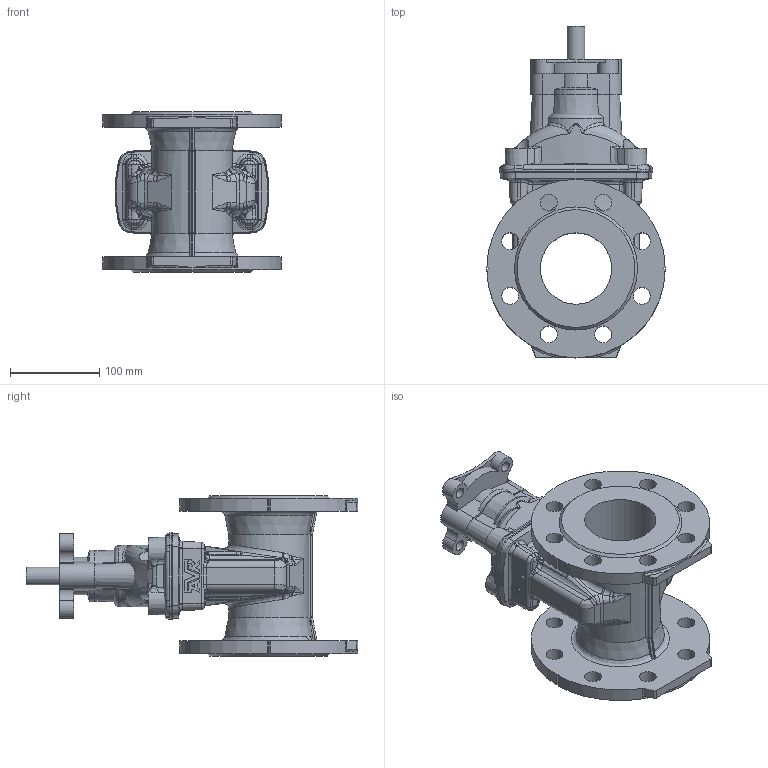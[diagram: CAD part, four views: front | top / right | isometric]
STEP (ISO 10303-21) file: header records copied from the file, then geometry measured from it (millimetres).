
FILE_DESCRIPTION (( 'STEP AP203' ), '1' );
FILE_NAME ('O_06_42_DN080_X1XXX_REV02.step', '2025-12-18T06:53:31', ( '' ), ( '' ), 'SwSTEP 2.0', 'SolidWorks 2022', '' );
FILE_SCHEMA (( 'CONFIG_CONTROL_DESIGN' ));
Length unit declared in the file: millimetre
Products named in the file (1): O_06_42_DN080_X1XXX_REV02
Bounding box: 199.98 x 372 x 180 mm (x, y, z)
Volume: 2592878.9 mm3; surface area: 323126.6 mm2
Topology: 1 solids, 1 shells, 597 faces, 1519 edges, 919 vertices
Faces by surface type: bspline 210, plane 141, cylinder 140, cone 62, torus 40, sphere 4
Full cylindrical faces by diameter (mm): 12 x4, 19 x16, 20 x1, 22 x4, 72 x1, 80 x1
Entity records: 24612 total; most frequent: CARTESIAN_POINT 12205, ORIENTED_EDGE 2884, DIRECTION 2139, EDGE_CURVE 1442, VERTEX_POINT 893, AXIS2_PLACEMENT_3D 863, EDGE_LOOP 685, FACE_OUTER_BOUND 630
